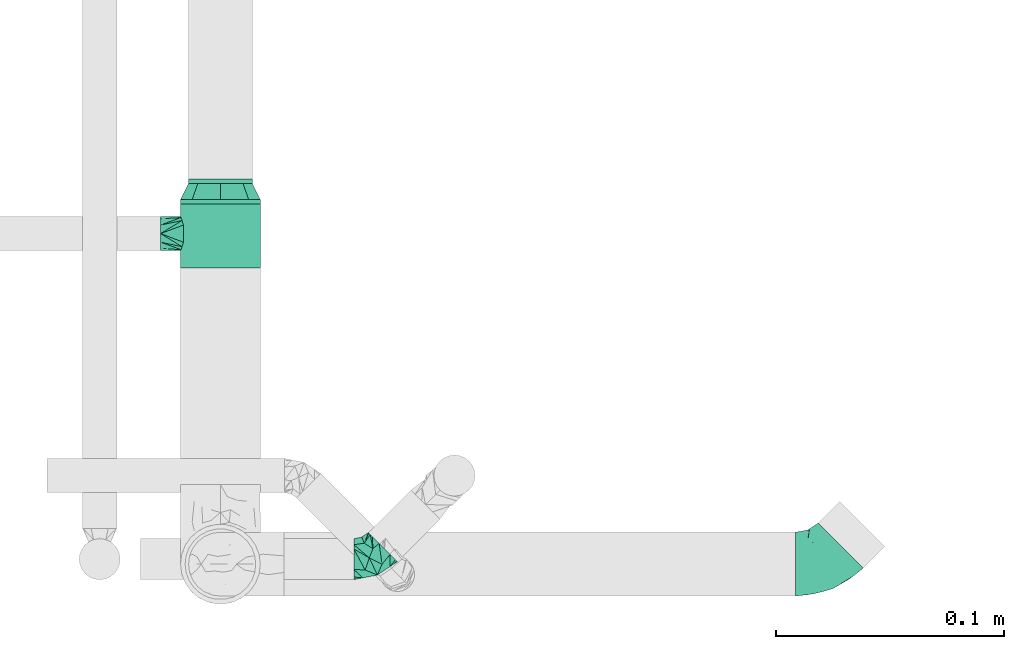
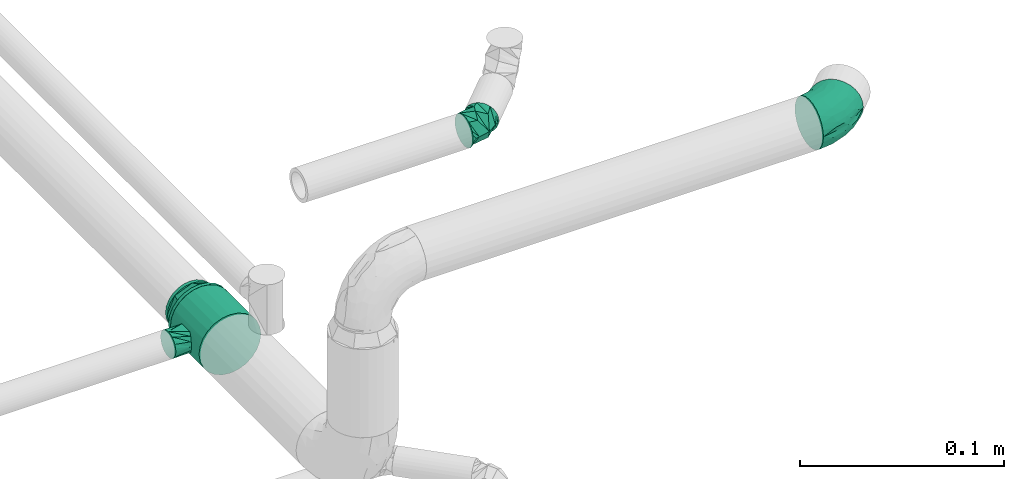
# One storey, part 31 of 35: 4 flow fittings.
"""IFC2X3 building model written with IfcOpenShell, lengths in millimetres."""

import ifcopenshell
import ifcopenshell.guid

model = None  # the IFC model being written
_history = None  # IfcOwnerHistory: only IFC2X3 demands one
_inside = {}  # id of a spatial element -> (the spatial element, [elements in it])
_under = {}  # id of a project, library or spatial element -> (it, [spatial elements below it])
_declared = {}  # id of a project -> (the project, [libraries it declares])
_typed = {}  # id of a type object -> (the type object, [elements of that type])
_made_of = {}  # id of a material, layer set ... -> (it, [elements and type objects made of it])


def new_model(schema):
    """Start an empty IFC model of exactly this schema.

    Asked for "IFC4X3", IfcOpenShell would pick the latest addendum, in which some entities
    have other attributes; the version numbers below select the first issue.
    IFC2X3 requires an IfcOwnerHistory on every rooted entity: one is made here for all.
    """
    global model, _history
    if schema == "IFC4X3":
        model = ifcopenshell.file(schema_version=(4, 3, 0, 0))
    else:
        model = ifcopenshell.file(schema=schema)
    _inside.clear()
    _under.clear()
    _declared.clear()
    _typed.clear()
    _made_of.clear()
    _history = None
    if model.schema == "IFC2X3":
        org = make("IfcOrganization", Name="unknown")
        user = make(
            "IfcPersonAndOrganization",
            ThePerson=make("IfcPerson", FamilyName="unknown"),
            TheOrganization=org,
        )
        app = make(
            "IfcApplication",
            ApplicationDeveloper=org,
            Version="unknown",
            ApplicationFullName="unknown",
            ApplicationIdentifier="unknown",
        )
        _history = make(
            "IfcOwnerHistory",
            OwningUser=user,
            OwningApplication=app,
            ChangeAction="ADDED",
            CreationDate=0,
        )
    return model


def make(cls, **values):
    """One entity of the class cls with the attributes given. An attribute that is None is left unset."""
    return model.create_entity(
        cls, **{name: value for name, value in values.items() if value is not None}
    )


def entity(cls, *values):
    """Any entity or typed value of the class cls, its attributes in the order of the schema. None: left unset."""
    e = model.create_entity(cls)
    for i, value in enumerate(values):
        if value is not None:
            e[i] = value
    return e


def rooted(cls, **values):
    """An entity with a GlobalId (a new one), such as an element, a storey or a relation."""
    return make(cls, GlobalId=ifcopenshell.guid.new(), OwnerHistory=_history, **values)


def si_unit(unit_type, name, prefix=None):
    """IfcSIUnit, for example si_unit("LENGTHUNIT", "METRE", prefix="MILLI")."""
    return make("IfcSIUnit", UnitType=unit_type, Prefix=prefix, Name=name)


def converted_unit(unit_type, name, factor, base, dimensions=None, offset=None):
    """IfcConversionBasedUnit, such as the inch: factor (a typed value) times the base unit."""
    return make(
        "IfcConversionBasedUnit"
        if offset is None
        else "IfcConversionBasedUnitWithOffset",
        ConversionOffset=offset,
        Dimensions=None
        if dimensions is None
        else entity("IfcDimensionalExponents", *dimensions),
        UnitType=unit_type,
        Name=name,
        ConversionFactor=make(
            "IfcMeasureWithUnit", ValueComponent=factor, UnitComponent=base
        ),
    )


def derived_unit(unit_type, elements):
    """IfcDerivedUnit: a product of units, each with its exponent."""
    return make(
        "IfcDerivedUnit",
        Elements=[
            make("IfcDerivedUnitElement", Unit=unit, Exponent=power)
            for unit, power in elements
        ],
        UnitType=unit_type,
    )


def assignment(units):
    """IfcUnitAssignment: the units of a project."""
    return None if units is None else make("IfcUnitAssignment", Units=units)


def point(xyz):
    """IfcCartesianPoint."""
    return None if xyz is None else make("IfcCartesianPoint", Coordinates=xyz)


def direction(xyz):
    """IfcDirection."""
    return None if xyz is None else make("IfcDirection", DirectionRatios=xyz)


def frame(location, z_axis=None, x_axis=None):
    """IfcAxis2Placement3D, a coordinate frame: its origin and axes. An axis left out is left unset."""
    return make(
        "IfcAxis2Placement3D",
        Location=point(location),
        Axis=direction(z_axis),
        RefDirection=direction(x_axis),
    )


def origin_with_axes():
    """The frame at (0, 0, 0) with the z axis (0, 0, 1) and the x axis (1, 0, 0) written out."""
    return frame((0.0, 0.0, 0.0), z_axis=(0.0, 0.0, 1.0), x_axis=(1.0, 0.0, 0.0))


def place(relative_to, where):
    """IfcLocalPlacement: puts the frame where relative to a parent placement (None: the world)."""
    return make(
        "IfcLocalPlacement", PlacementRelTo=relative_to, RelativePlacement=where
    )


def context(
    kind, dimensions, precision=None, world=None, true_north=None, identifier=None
):
    """IfcGeometricRepresentationContext, for example the 3D "Model" context."""
    return make(
        "IfcGeometricRepresentationContext",
        ContextIdentifier=identifier,
        ContextType=kind,
        CoordinateSpaceDimension=dimensions,
        Precision=precision,
        WorldCoordinateSystem=world,
        TrueNorth=true_north,
    )


def subcontext(parent, identifier, kind, view, scale=None):
    """IfcGeometricRepresentationSubContext, for example "Body" below "Model"."""
    return make(
        "IfcGeometricRepresentationSubContext",
        ContextIdentifier=identifier,
        ContextType=kind,
        ParentContext=parent,
        TargetScale=scale,
        TargetView=view,
    )


def project(units=None, contexts=None):
    """IfcProject with its units and contexts."""
    return rooted(
        "IfcProject",
        Name="project",
        RepresentationContexts=contexts,
        UnitsInContext=assignment(units),
    )


def spatial(cls, under=None, at=None, **own):
    """A site, building, storey or space (cls), placed at a placement, below another one or the project."""
    s = rooted(cls, ObjectPlacement=at, **own)
    if under is not None:
        _under.setdefault(under.id(), (under, []))[1].append(s)
    return s


def faces_of(points, faces, orient=None, outer=None):
    """IfcFace entities. A face is a list of loops; a loop is a list of indices into points, from 0.

    orient and outer hold one flag for each loop. By default every Orientation is true, the
    first loop of a face is its IfcFaceOuterBound and the others are IfcFaceBound.
    """
    made = []
    for i, loops in enumerate(faces):
        bounds = []
        for j, loop in enumerate(loops):
            is_outer = j == 0 if outer is None else outer[i][j]
            bounds.append(
                make(
                    "IfcFaceOuterBound" if is_outer else "IfcFaceBound",
                    Bound=make("IfcPolyLoop", Polygon=[points[k] for k in loop]),
                    Orientation=True if orient is None else orient[i][j],
                )
            )
        made.append(make("IfcFace", Bounds=bounds))
    return made


def open_shell(faces, orient=None, outer=None):
    """The faces of one IfcOpenShell. surface_model builds it on its shared points."""
    return ("IfcOpenShell", faces, orient, outer)


def surface_model(cls, points, shells):
    """IfcFaceBasedSurfaceModel or IfcShellBasedSurfaceModel (cls): surfaces that need not close."""
    shared = [point(p) for p in points]
    made = [make(c, CfsFaces=faces_of(shared, fs, o, b)) for c, fs, o, b in shells]
    if cls == "IfcFaceBasedSurfaceModel":
        return make(cls, FbsmFaces=made)
    return make(cls, SbsmBoundary=made)


def shape(context_of_items, identifier, shape_type, items):
    """IfcShapeRepresentation: the items that make up one representation, for example the "Body"."""
    return make(
        "IfcShapeRepresentation",
        ContextOfItems=context_of_items,
        RepresentationIdentifier=identifier,
        RepresentationType=shape_type,
        Items=items,
    )


def source(mapping_origin, context_of_items, identifier, shape_type, items):
    """IfcRepresentationMap: a shape defined once, which mapped items show again and again."""
    return make(
        "IfcRepresentationMap",
        MappingOrigin=mapping_origin,
        MappedRepresentation=shape(context_of_items, identifier, shape_type, items),
    )


def transform(
    local_origin,
    x_axis=None,
    y_axis=None,
    z_axis=None,
    scale=None,
    scale2=None,
    scale3=None,
    uniform=True,
):
    """IfcCartesianTransformationOperator3D, or its non-uniform kind. x_axis, y_axis, z_axis: its Axis1, 2, 3."""
    if uniform:
        return make(
            "IfcCartesianTransformationOperator3D",
            Axis1=direction(x_axis),
            Axis2=direction(y_axis),
            LocalOrigin=point(local_origin),
            Scale=scale,
            Axis3=direction(z_axis),
        )
    return make(
        "IfcCartesianTransformationOperator3DnonUniform",
        Axis1=direction(x_axis),
        Axis2=direction(y_axis),
        LocalOrigin=point(local_origin),
        Scale=scale,
        Axis3=direction(z_axis),
        Scale2=scale2,
        Scale3=scale3,
    )


def mapped(mapping_source, mapping_target):
    """IfcMappedItem: shows the shape of a source again, moved by a transform."""
    return make(
        "IfcMappedItem", MappingSource=mapping_source, MappingTarget=mapping_target
    )


def made_of(thing, what):
    """Note that an element or type object is made of a material, layer set ...; save() writes the relation."""
    if what is not None:
        _made_of.setdefault(what.id(), (what, []))[1].append(thing)
    return thing


def type_object(cls, material=None, **own):
    """A type object (cls), such as IfcWallType, which elements share."""
    return made_of(rooted(cls, **own), material)


def element(
    cls,
    number,
    at=None,
    inside=None,
    cuts=None,
    type_object=None,
    material=None,
    context=None,
    identifier="Body",
    shape_type=None,
    held_by="IfcProductDefinitionShape",
    body=None,
    shapes=None,
    **own,
):
    """One element of the class cls, such as IfcWall. Its Tag is "e" and its number.

    at: its placement. inside: the storey or other place that contains it. cuts: it is an
    opening in that element (IfcRelVoidsElement). A single representation is given by context,
    identifier, shape_type and body (its items); several are given by shapes. held_by: the class
    of the entity that holds the representations. save() writes the other relations.
    """
    e = rooted(cls, Tag="e%d" % number, ObjectPlacement=at, **own)
    if body is not None:
        shapes = [shape(context, identifier, shape_type, body)]
    if shapes is not None:
        e.Representation = make(held_by, Representations=shapes)
    if inside is not None:
        _inside.setdefault(inside.id(), (inside, []))[1].append(e)
    if cuts is not None:
        rooted(
            "IfcRelVoidsElement", RelatingBuildingElement=cuts, RelatedOpeningElement=e
        )
    if type_object is not None:
        _typed.setdefault(type_object.id(), (type_object, []))[1].append(e)
    return made_of(e, material)


def aggregate(whole, parts):
    """IfcRelAggregates: a whole, such as a stair, and the parts it consists of."""
    return rooted("IfcRelAggregates", RelatingObject=whole, RelatedObjects=parts)


def save(model, path):
    """Write the relations noted so far, then the file.

    IfcRelAggregates (storeys below a building ...), IfcRelContainedInSpatialStructure (elements
    in a storey), IfcRelDefinesByType, IfcRelAssociatesMaterial and IfcRelDeclares: one each for
    every whole, place, type object, material and project.
    """
    for whole, parts in _under.values():
        aggregate(whole, parts)
    for where, things in _inside.values():
        rooted(
            "IfcRelContainedInSpatialStructure",
            RelatedElements=things,
            RelatingStructure=where,
        )
    for kind, things in _typed.values():
        rooted("IfcRelDefinesByType", RelatedObjects=things, RelatingType=kind)
    for what, things in _made_of.values():
        rooted("IfcRelAssociatesMaterial", RelatedObjects=things, RelatingMaterial=what)
    for by, libraries in _declared.values():
        rooted("IfcRelDeclares", RelatingContext=by, RelatedDefinitions=libraries)
    model.write(path)


model = new_model("IFC2X3")

# Units and contexts
model_context = context("Model", 3, precision=0.01, world=frame((0.0, 4.29681676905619e-09, 0.0)), true_north=direction((4.01073788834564e-13, 1.0)))
plan_context = context("Plan", 3, precision=0.01, world=frame((0.0, 4.29681676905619e-09, 0.0)), true_north=direction((4.01073788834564e-13, 1.0)))
body_context = subcontext(model_context, "Body", "Model", "MODEL_VIEW")
ifc_project = project(units=[converted_unit("PLANEANGLEUNIT", "DEGREE", entity("IfcPositiveLengthMeasure", 0.0174532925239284), si_unit("PLANEANGLEUNIT", "RADIAN"), dimensions=[0, 0, 0, 0, 0, 0, 0]), si_unit("AREAUNIT", "SQUARE_METRE"), si_unit("LENGTHUNIT", "METRE", prefix="MILLI"), si_unit("MASSUNIT", "GRAM", prefix="KILO"), si_unit("POWERUNIT", "WATT"), si_unit("PRESSUREUNIT", "PASCAL"), si_unit("FORCEUNIT", "NEWTON", prefix="KILO"), si_unit("ELECTRICVOLTAGEUNIT", "VOLT"), si_unit("ELECTRICCURRENTUNIT", "AMPERE"), si_unit("THERMODYNAMICTEMPERATUREUNIT", "DEGREE_CELSIUS"), si_unit("TIMEUNIT", "SECOND"), si_unit("VOLUMEUNIT", "CUBIC_METRE"), derived_unit("LINEARVELOCITYUNIT", [(si_unit("LENGTHUNIT", "METRE"), 1), (si_unit("TIMEUNIT", "SECOND"), -1)]), derived_unit("VOLUMETRICFLOWRATEUNIT", [(si_unit("VOLUMEUNIT", "CUBIC_METRE"), 1), (si_unit("TIMEUNIT", "SECOND"), -1)]), derived_unit("THERMALTRANSMITTANCEUNIT", [(si_unit("POWERUNIT", "WATT"), 1), (si_unit("THERMODYNAMICTEMPERATUREUNIT", "KELVIN"), -1), (si_unit("AREAUNIT", "SQUARE_METRE"), -1)]), derived_unit("SOUNDPRESSUREUNIT", [(si_unit("PRESSUREUNIT", "PASCAL"), 1)])], contexts=[model_context, plan_context])

# Site, building, storey
site_placement = place(None, frame((0.0, -4.29681676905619e-09, 0.0), z_axis=(0.0, 0.0, 1.0), x_axis=(1.0, 0.0, 0.0)))
site = spatial("IfcSite", under=ifc_project, at=site_placement, Name="ENGM", CompositionType="ELEMENT")
building_placement = place(site_placement, frame((0.0, 4.29681676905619e-09, 0.0), z_axis=(0.0, 0.0, 1.0), x_axis=(1.0, 0.0, 0.0)))
building = spatial("IfcBuilding", under=site, at=building_placement, Name="TH", CompositionType="ELEMENT")
storey_placement = place(building_placement, frame((0.0, 0.0, 210200.0), z_axis=(0.0, 0.0, 1.0), x_axis=(1.0, 0.0, 0.0)))
storey = spatial("IfcBuildingStorey", under=building, at=storey_placement, Name="Nivå F - 0,7 m", CompositionType="ELEMENT", Elevation=210200.0)

# Flow fittings
pipe_fitting_type_1 = type_object("IfcPipeFittingType", Name="magi_pipe_cu_tee_centric_90_001", PredefinedType="JUNCTION")
shared_shape_1 = source(origin_with_axes(), body_context, "Body", "SurfaceModel", [
    surface_model("IfcShellBasedSurfaceModel", [(-15.0, 4.52933, -16.9037), (-15.0, 0.0, -17.5), (-15.0, 16.9037, -4.52933), (-15.0, 8.75, -15.15544), (-15.0, 12.37437, -12.37437), (-15.0, 15.15544, -8.75), (-15.0, -16.9037, 4.52933), (-15.0, -16.9037, -4.52933), (-15.0, -4.52933, -16.9037), (-15.0, -8.75, -15.15544), (-15.0, -12.37437, -12.37437), (-15.0, -15.15544, -8.75), (-15.0, -17.5, 0.0), (-15.0, 15.15544, 8.75), (-15.0, 16.9037, 4.52933), (-15.0, 8.75, 15.15544), (-15.0, 12.37437, 12.37437), (-15.0, 4.52933, 16.9037), (-15.0, -15.15544, 8.75), (-15.0, -12.37437, 12.37437), (-15.0, -4.52933, 16.9037), (-15.0, -8.75, 15.15544), (-15.0, 0.0, 17.5), (-15.0, 17.5, 0.0), (15.0, 16.9037, -4.52933), (15.0, 0.0, -17.5), (15.0, 4.52933, -16.9037), (15.0, 12.37437, -12.37437), (15.0, 8.75, -15.15544), (15.0, 15.15544, -8.75), (15.0, -16.9037, -4.52933), (15.0, -16.9037, 4.52933), (15.0, -8.75, -15.15544), (15.0, -4.52933, -16.9037), (15.0, -12.37437, -12.37437), (15.0, -15.15544, -8.75), (15.0, -17.5, 0.0), (15.0, 16.9037, 4.52933), (15.0, 15.15544, 8.75), (15.0, 8.75, 15.15544), (15.0, 12.37437, 12.37437), (15.0, 4.52933, 16.9037), (15.0, -12.37437, 12.37437), (15.0, -15.15544, 8.75), (15.0, -4.52933, 16.9037), (15.0, -8.75, 15.15544), (15.0, 0.0, 17.5), (15.0, 17.5, 0.0), (15.0, -17.20185, 2.26467), (7.03945, -17.30762, 2.58769), (7.5, -17.5, 0.0), (5.73763, -16.82024, 4.83007), (1.3158, -15.86604, 7.38368), (-7.03966, -17.30771, 2.58712), (-15.0, -17.20185, 2.26467), (3.76622, -16.25375, 6.4858), (-7.5, -17.5, 0.0), (-5.73962, -16.82092, 4.82771), (-3.76686, -16.2539, 6.48543), (-1.31787, -15.86621, 7.38331), (7.03945, -17.30762, -2.58769), (15.0, -17.20185, -2.26467), (-15.0, -17.20185, -2.26467), (-7.03966, -17.30771, -2.58712), (3.76622, -16.25375, -6.4858), (1.3158, -15.86604, -7.38368), (5.73763, -16.82024, -4.83007), (-1.31787, -15.86621, -7.38331), (-3.76686, -16.2539, -6.48543), (-5.73962, -16.82092, -4.82771), (5.3033, -26.25, -5.3033), (0.0, -26.25, -7.5), (1.94114, -26.25, -7.24444), (3.75, -26.25, -6.49519), (6.49519, -26.25, -3.75), (7.24444, -26.25, -1.94114), (-5.3033, -26.25, -5.3033), (-7.5, -26.25, 0.0), (-1.94114, -26.25, -7.24444), (-3.75, -26.25, -6.49519), (-6.49519, -26.25, -3.75), (-7.24444, -26.25, -1.94114), (3.75, -26.25, 6.49519), (7.5, -26.25, 0.0), (7.24444, -26.25, 1.94114), (6.49519, -26.25, 3.75), (0.0, -26.25, 7.5), (5.3033, -26.25, 5.3033), (1.94114, -26.25, 7.24444), (-7.24444, -26.25, 1.94114), (-5.3033, -26.25, 5.3033), (-6.49519, -26.25, 3.75), (-3.75, -26.25, 6.49519), (-1.94114, -26.25, 7.24444)], [open_shell([[[0, 1, 2]], [[3, 0, 4]], [[2, 5, 4]], [[0, 2, 4]], [[6, 1, 7]], [[8, 9, 1]], [[9, 10, 1]], [[11, 7, 10]], [[10, 7, 1]], [[12, 6, 7]], [[2, 1, 6]], [[2, 13, 14]], [[13, 2, 6]], [[15, 13, 6]], [[16, 13, 15]], [[17, 15, 6]], [[18, 19, 6]], [[20, 6, 19]], [[21, 20, 19]], [[22, 6, 20]], [[22, 17, 6]], [[23, 2, 14]], [[24, 25, 26]], [[27, 26, 28]], [[27, 29, 24]], [[27, 24, 26]], [[30, 25, 31]], [[25, 32, 33]], [[25, 34, 32]], [[34, 30, 35]], [[25, 30, 34]], [[30, 31, 36]], [[31, 25, 24]], [[37, 38, 24]], [[31, 24, 38]], [[31, 38, 39]], [[39, 38, 40]], [[31, 39, 41]], [[31, 42, 43]], [[42, 31, 44]], [[42, 44, 45]], [[44, 31, 46]], [[31, 41, 46]], [[37, 24, 47]], [[48, 31, 49]], [[50, 36, 48]], [[31, 51, 49]], [[52, 43, 18]], [[53, 6, 54]], [[51, 31, 55]], [[52, 55, 43]], [[43, 42, 18]], [[55, 31, 43]], [[50, 48, 49]], [[53, 54, 56]], [[12, 56, 54]], [[53, 57, 6]], [[58, 59, 18]], [[18, 6, 58]], [[59, 52, 18]], [[58, 6, 57]], [[42, 19, 18]], [[42, 45, 19]], [[22, 44, 46]], [[20, 45, 44]], [[17, 46, 41]], [[38, 37, 14]], [[16, 39, 40]], [[13, 40, 38]], [[41, 39, 15]], [[23, 37, 47]], [[21, 45, 20]], [[20, 44, 22]], [[17, 22, 46]], [[41, 15, 17]], [[15, 39, 16]], [[13, 16, 40]], [[14, 13, 38]], [[37, 23, 14]], [[45, 21, 19]], [[24, 23, 47]], [[2, 24, 29]], [[29, 27, 5]], [[25, 33, 8]], [[60, 30, 61]], [[26, 25, 0]], [[28, 4, 27]], [[33, 32, 9]], [[26, 3, 28]], [[4, 5, 27]], [[5, 2, 29]], [[2, 23, 24]], [[56, 62, 63]], [[0, 25, 1]], [[1, 25, 8]], [[33, 9, 8]], [[3, 4, 28]], [[26, 0, 3]], [[32, 10, 9]], [[11, 34, 35]], [[64, 65, 35]], [[35, 30, 64]], [[11, 35, 65]], [[36, 50, 61]], [[60, 66, 30]], [[60, 61, 50]], [[30, 66, 64]], [[67, 68, 11]], [[10, 34, 11]], [[68, 7, 11]], [[11, 65, 67]], [[69, 63, 7]], [[63, 62, 7]], [[62, 56, 12]], [[69, 7, 68]], [[34, 10, 32]], [[70, 71, 72]], [[70, 72, 73]], [[70, 74, 75]], [[71, 70, 76]], [[77, 70, 75]], [[78, 76, 79]], [[78, 71, 76]], [[80, 77, 81]], [[77, 80, 76]], [[70, 77, 76]], [[75, 82, 77]], [[83, 84, 85]], [[85, 82, 75]], [[82, 86, 77]], [[82, 85, 87]], [[86, 82, 88]], [[89, 90, 91]], [[90, 89, 86]], [[92, 86, 93]], [[86, 92, 90]], [[77, 86, 89]], [[85, 75, 83]], [[56, 77, 89]], [[53, 91, 90]], [[89, 91, 56]], [[90, 92, 53]], [[56, 91, 53]], [[53, 92, 57]], [[59, 58, 55]], [[57, 86, 58]], [[93, 86, 57]], [[93, 57, 92]], [[88, 51, 86]], [[82, 51, 88]], [[49, 87, 85]], [[82, 87, 49]], [[50, 85, 84]], [[86, 51, 55]], [[52, 59, 55]], [[85, 50, 49]], [[49, 51, 82]], [[84, 83, 50]], [[55, 58, 86]], [[50, 83, 75]], [[60, 74, 70]], [[75, 74, 50]], [[70, 73, 60]], [[50, 74, 60]], [[60, 73, 66]], [[65, 64, 67]], [[66, 71, 64]], [[72, 71, 66]], [[72, 66, 73]], [[69, 71, 78]], [[79, 69, 78]], [[63, 76, 80]], [[79, 76, 63]], [[56, 80, 81]], [[71, 69, 68]], [[67, 64, 68]], [[80, 56, 63]], [[63, 69, 79]], [[81, 77, 56]], [[68, 64, 71]]])]),
])
flow_fitting_1_placement = place(storey_placement, frame((895573.45, 478692.05558, 3055.47382000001), z_axis=(0.0, 3.999999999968e-06, -0.999999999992), x_axis=(0.0, 0.999999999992, 3.999999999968e-06)))
element("IfcFlowFitting", 1, at=flow_fitting_1_placement, inside=storey, type_object=pipe_fitting_type_1, Name="magi_pipe_cu_tee_centric_90_001", context=body_context, shape_type="MappedRepresentation", body=[
    mapped(shared_shape_1, transform((0.0, 0.0, 0.0), scale=1.0)),
])
pipe_fitting_type_2 = type_object("IfcPipeFittingType", Name="magi_pipe_cu_elbow_short_001", PredefinedType="BEND")
shared_shape_2 = source(origin_with_axes(), body_context, "Body", "SurfaceModel", [
    surface_model("IfcShellBasedSurfaceModel", [(-11.59798, 3.62347, -13.52296), (-11.59798, 0.0, -14.0), (-11.59798, 13.52296, -3.62347), (-11.59798, 7.0, -12.12436), (-11.59798, 9.89949, -9.89949), (-11.59798, 12.12436, -7.0), (-11.59798, -9.89949, 9.89949), (-11.59798, -13.52296, -3.62347), (-11.59798, -7.0, -12.12436), (-11.59798, -9.89949, -9.89949), (-11.59798, -3.62347, -13.52296), (-11.59798, -12.12436, -7.0), (-11.59798, -14.0, 0.0), (-11.59798, -13.52296, 3.62347), (-11.59798, 13.52296, 3.62347), (-11.59798, 14.0, 0.0), (-11.59798, 3.62347, 13.52296), (-11.59798, 12.12436, 7.0), (-11.59798, 9.89949, 9.89949), (-11.59798, 7.0, 12.12436), (-11.59798, 0.0, 14.0), (-11.59798, -12.12436, 7.0), (-11.59798, -3.62347, 13.52296), (-11.59798, -7.0, 12.12436), (1.20101, 15.20101, -9.89949), (5.63883, 10.76319, -13.52296), (3.25126, 13.15076, -12.12436), (10.76319, 5.63883, -13.52296), (15.20101, 1.20101, -9.89949), (13.15076, 3.25126, -12.12436), (1.20101, 15.20101, 9.89949), (-1.36117, 17.76319, 3.62347), (-0.3722, 16.77422, 7.0), (17.76319, -1.36117, 3.62347), (15.20101, 1.20101, 9.89949), (16.77422, -0.3722, 7.0), (13.15076, 3.25126, 12.12436), (8.20101, 8.20101, 14.0), (10.76319, 5.63883, 13.52296), (-5.54733, -5.13368, 12.79528), (-3.09728, -7.91248, 10.80295), (1.43749, -3.4704, 12.61888), (-4.52077, -10.70735, 8.19754), (10.76791, -4.37457, 8.19754), (-4.17837, -1.34796, 13.81453), (-5.37924, 5.82578, 13.08803), (-1.3316, 3.21475, 13.9508), (-7.01464, 1.94, 13.91504), (5.63883, 10.76319, 13.52296), (0.41555, 8.4165, 13.06701), (2.53088, 6.62697, 13.79637), (3.56571, -8.6084, 7.80178), (7.55262, 0.29249, 12.79528), (-5.76737, 13.92367, 5.7518), (-6.17396, 11.74106, 8.83494), (-3.97673, 9.60067, 11.42968), (1.20522, -11.76941, 2.47487), (6.40016, -9.70404, 2.47487), (4.13988, -9.99455, 4.87178), (-3.56163, -12.40147, 0.0), (-3.94515, -13.0586, 2.55052), (13.4923, -5.3555, 2.69269), (10.33958, -6.78955, 4.86184), (-5.60762, 15.0014, 2.94157), (-2.51025, -12.11212, 4.86184), (3.25126, 13.15076, 12.12436), (3.9077, 2.00141, 13.81453), (7.78508, -3.40486, 10.80295), (4.47472, -10.80294, 0.0), (11.28761, -6.25071, 0.0), (18.10051, -1.69848, 0.0), (-6.24041, 15.06569, 0.0), (-1.69848, 18.10051, 0.0), (2.34987, -5.67309, 11.16422), (-4.17837, -1.34796, -13.81452), (7.47001, -9.17445, -2.47487), (2.3362, -11.38739, -2.47487), (4.13988, -9.99455, -4.87178), (8.20101, 8.20101, -14.0), (3.9077, 2.00141, -13.81452), (-6.24521, 5.65753, -13.06701), (-6.47558, 2.89638, -13.79637), (-3.93654, 12.66784, -8.83494), (7.78508, -3.40486, -10.80295), (-5.76737, 13.92367, -5.7518), (16.77422, -0.3722, -7.0), (17.76319, -1.36117, -3.62347), (10.33958, -6.78955, -4.86184), (-6.6424, 14.57277, -2.94157), (-0.31575, 7.92315, -13.08803), (-5.75358, -13.32741, -2.69269), (-2.51025, -12.11212, -4.86184), (3.56571, -8.6084, -7.80178), (10.76791, -4.37457, -8.19754), (-4.52077, -10.70735, -8.19754), (-3.09728, -7.91248, -10.80295), (2.34987, -5.67309, -11.16422), (-5.54733, -5.13368, -12.79528), (1.43749, -3.4704, -12.61888), (7.55262, 0.29249, -12.79528), (-1.36117, 17.76319, -3.62347), (-1.33159, 3.21474, -13.9508), (-3.97673, 9.60067, -11.42968), (-0.3722, 16.77422, -7.0), (12.02347, -6.44418, -2.55052), (3.58832, 6.33189, -13.91504)], [open_shell([[[0, 1, 2]], [[3, 0, 4]], [[2, 5, 4]], [[0, 2, 4]], [[6, 1, 7]], [[8, 9, 10]], [[9, 1, 10]], [[11, 7, 9]], [[9, 7, 1]], [[12, 13, 7]], [[2, 1, 6]], [[14, 15, 16]], [[17, 14, 18]], [[16, 19, 18]], [[14, 16, 18]], [[20, 16, 15]], [[21, 6, 13]], [[6, 7, 13]], [[22, 20, 23]], [[6, 23, 20]], [[2, 6, 20]], [[15, 2, 20]], [[24, 25, 26]], [[27, 28, 29]], [[30, 31, 32]], [[33, 34, 35]], [[36, 37, 38]], [[39, 40, 41]], [[6, 42, 40]], [[23, 6, 40]], [[35, 34, 43]], [[20, 22, 44]], [[22, 23, 39]], [[19, 16, 45]], [[46, 47, 44]], [[20, 47, 16]], [[48, 49, 50]], [[40, 42, 51]], [[36, 38, 52]], [[53, 17, 54]], [[55, 18, 19]], [[56, 57, 58]], [[59, 56, 60]], [[61, 33, 62]], [[53, 63, 14]], [[21, 13, 64]], [[15, 14, 63]], [[14, 17, 53]], [[6, 21, 42]], [[45, 55, 19]], [[64, 58, 51]], [[12, 59, 60]], [[65, 30, 55]], [[37, 50, 66]], [[34, 36, 67]], [[32, 31, 53]], [[66, 38, 37]], [[56, 59, 68]], [[34, 67, 43]], [[46, 50, 49]], [[67, 36, 52]], [[21, 64, 42]], [[69, 61, 57]], [[33, 61, 70]], [[47, 45, 16]], [[63, 53, 31]], [[71, 63, 72]], [[43, 51, 62]], [[40, 73, 41]], [[41, 66, 44]], [[48, 65, 49]], [[41, 52, 66]], [[53, 54, 32]], [[46, 44, 66]], [[30, 32, 54]], [[55, 45, 49]], [[39, 44, 22]], [[17, 18, 54]], [[33, 35, 62]], [[51, 42, 64]], [[73, 51, 67]], [[51, 43, 67]], [[62, 35, 43]], [[18, 55, 54]], [[30, 54, 55]], [[55, 49, 65]], [[46, 49, 45]], [[40, 39, 23]], [[44, 39, 41]], [[66, 52, 38]], [[67, 52, 41]], [[66, 50, 46]], [[37, 48, 50]], [[44, 47, 20]], [[45, 47, 46]], [[56, 58, 64]], [[62, 51, 58]], [[56, 64, 60]], [[57, 56, 68]], [[69, 57, 68]], [[62, 58, 57]], [[64, 13, 60]], [[12, 60, 13]], [[51, 73, 40]], [[67, 41, 73]], [[72, 63, 31]], [[63, 71, 15]], [[57, 61, 62]], [[70, 61, 69]], [[10, 1, 74]], [[75, 76, 77]], [[78, 27, 79]], [[80, 81, 0]], [[5, 82, 4]], [[29, 28, 83]], [[84, 82, 5]], [[85, 86, 87]], [[2, 88, 84]], [[26, 25, 89]], [[90, 7, 91]], [[3, 80, 0]], [[59, 90, 76]], [[92, 93, 87]], [[7, 90, 12]], [[94, 9, 95]], [[9, 8, 95]], [[96, 92, 95]], [[7, 11, 91]], [[9, 94, 11]], [[97, 8, 10]], [[94, 92, 91]], [[98, 74, 79]], [[99, 79, 27]], [[15, 71, 88]], [[75, 69, 68]], [[72, 100, 88]], [[101, 79, 74]], [[24, 26, 102]], [[84, 5, 2]], [[103, 82, 84]], [[97, 95, 8]], [[89, 102, 26]], [[81, 74, 1]], [[102, 89, 80]], [[4, 102, 3]], [[69, 75, 104]], [[78, 105, 25]], [[99, 27, 29]], [[87, 77, 92]], [[28, 85, 93]], [[83, 98, 99]], [[83, 93, 92]], [[98, 97, 74]], [[70, 69, 104]], [[103, 24, 82]], [[105, 89, 25]], [[93, 83, 28]], [[83, 96, 98]], [[105, 79, 101]], [[101, 81, 80]], [[100, 84, 88]], [[85, 87, 93]], [[100, 103, 84]], [[92, 94, 95]], [[91, 11, 94]], [[24, 102, 82]], [[4, 82, 102]], [[102, 80, 3]], [[101, 80, 89]], [[74, 97, 10]], [[95, 97, 98]], [[83, 99, 29]], [[79, 99, 98]], [[74, 81, 101]], [[1, 0, 81]], [[79, 105, 78]], [[89, 105, 101]], [[75, 77, 87]], [[91, 92, 77]], [[75, 87, 104]], [[76, 75, 68]], [[59, 76, 68]], [[91, 77, 76]], [[87, 86, 104]], [[70, 104, 86]], [[92, 96, 83]], [[95, 98, 96]], [[15, 88, 2]], [[88, 71, 72]], [[76, 90, 91]], [[12, 90, 59]], [[24, 103, 100]], [[25, 28, 78]], [[24, 100, 25]], [[31, 28, 25]], [[27, 78, 28]], [[28, 86, 85]], [[86, 28, 70]], [[28, 34, 70]], [[31, 25, 100]], [[34, 28, 31]], [[31, 65, 34]], [[65, 31, 30]], [[48, 34, 65]], [[70, 34, 33]], [[37, 36, 34]], [[48, 37, 34]], [[100, 72, 31]]])]),
])
flow_fitting_2_placement = place(storey_placement, frame((895837.40996, 478547.05558, 3178.15807999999), z_axis=(0.0, 0.000126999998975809, 0.9999999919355), x_axis=(1.0, 0.0, 0.0)))
element("IfcFlowFitting", 2, at=flow_fitting_2_placement, inside=storey, type_object=pipe_fitting_type_2, Name="magi_pipe_cu_elbow_short_001", context=body_context, shape_type="MappedRepresentation", body=[
    mapped(shared_shape_2, transform((0.0, 0.0, 0.0), scale=1.0)),
])
pipe_fitting_type_3 = type_object("IfcPipeFittingType", Name="magi_pipe_cu_reducer_centric_short_001", PredefinedType="TRANSITION")
shared_shape_3 = source(origin_with_axes(), body_context, "Body", "SurfaceModel", [
    surface_model("IfcShellBasedSurfaceModel", [(-2.0, 0.0, 17.5), (-2.0, 4.52933, 16.9037), (-2.0, 8.75, 15.15544), (-2.0, -16.9037, 4.52933), (-2.0, 12.37437, 12.37437), (-2.0, 15.15544, 8.75), (-2.0, 16.9037, 4.52933), (-2.0, -8.75, 15.15544), (-2.0, -12.37437, 12.37437), (-2.0, -4.52933, 16.9037), (-2.0, -15.15544, 8.75), (-2.0, -15.15544, -8.75), (-2.0, -17.5, 0.0), (-2.0, 16.9037, -4.52933), (-2.0, 8.75, -15.15544), (-2.0, 12.37437, -12.37437), (-2.0, 15.15544, -8.75), (-2.0, 4.52933, -16.9037), (-2.0, -8.75, -15.15544), (-2.0, -12.37437, -12.37437), (-2.0, -16.9037, -4.52933), (-2.0, 0.0, -17.5), (-2.0, -4.52933, -16.9037), (-2.0, 17.5, 0.0), (0.0, 16.9037, -4.52933), (0.0, 4.52933, -16.9037), (0.0, 8.75, -15.15544), (0.0, 12.37437, -12.37437), (0.0, -15.15544, -8.75), (0.0, 15.15544, -8.75), (0.0, 16.9037, 4.52933), (0.0, 0.0, -17.5), (0.0, -8.75, -15.15544), (0.0, -4.52933, -16.9037), (0.0, -12.37437, -12.37437), (0.0, -17.5, 0.0), (0.0, -16.9037, -4.52933), (0.0, 17.5, 0.0), (0.0, 15.15544, 8.75), (0.0, 12.37437, 12.37437), (0.0, 8.75, 15.15544), (0.0, 4.52933, 16.9037), (0.0, 0.0, 17.5), (0.0, -16.9037, 4.52933), (0.0, -12.37437, 12.37437), (0.0, -15.15544, 8.75), (0.0, -8.75, 15.15544), (0.0, -4.52933, 16.9037), (9.0, 3.62347, -13.52296), (9.0, 7.0, -12.12436), (9.0, 9.89949, -9.89949), (9.0, 12.12436, -7.0), (9.0, 13.52296, -3.62347), (9.0, -7.0, -12.12436), (9.0, -12.12436, -7.0), (9.0, 14.0, 0.0), (9.0, 0.0, -14.0), (9.0, -3.62347, -13.52296), (9.0, -9.89949, -9.89949), (9.0, -13.52296, -3.62347), (9.0, 13.52296, 3.62347), (9.0, 12.12436, 7.0), (9.0, 9.89949, 9.89949), (9.0, 0.0, 14.0), (9.0, 3.62347, 13.52296), (9.0, 7.0, 12.12436), (9.0, -3.62347, 13.52296), (9.0, -13.52296, 3.62347), (9.0, -9.89949, 9.89949), (9.0, -12.12436, 7.0), (9.0, -14.0, 0.0), (9.0, -7.0, 12.12436), (7.0, 9.89949, 9.89949), (7.0, 0.0, 14.0), (7.0, 3.62347, 13.52296), (7.0, 7.0, 12.12436), (7.0, 12.12436, 7.0), (7.0, 13.52296, 3.62347), (7.0, -14.0, 0.0), (7.0, -12.12436, -7.0), (7.0, -3.62347, 13.52296), (7.0, -9.89949, 9.89949), (7.0, -7.0, 12.12436), (7.0, -13.52296, 3.62347), (7.0, -12.12436, 7.0), (7.0, 13.52296, -3.62347), (7.0, 3.62347, -13.52296), (7.0, 12.12436, -7.0), (7.0, 9.89949, -9.89949), (7.0, 7.0, -12.12436), (7.0, 0.0, -14.0), (7.0, -7.0, -12.12436), (7.0, -9.89949, -9.89949), (7.0, -13.52296, -3.62347), (7.0, -3.62347, -13.52296), (7.0, 14.0, 0.0), (0.0, 13.65578, -9.28078), (0.0, 14.93718, -6.18718), (7.0, 10.94135, -7.38422), (7.0, 11.98322, -4.86895), (0.0, 16.21859, -3.09359), (7.0, 12.99161, -2.43447), (0.0, 3.09359, -16.21859), (0.0, 6.18718, -14.93718), (0.0, 9.28078, -13.65578), (7.0, 4.94975, -11.94975), (7.0, 7.42462, -10.92462), (7.0, 2.47487, -12.97487), (0.0, -14.93718, -6.18718), (7.0, -11.94975, -4.94975), (7.0, -12.97487, -2.47487), (7.0, -2.47487, -12.97487), (7.0, -10.92462, -7.42462), (0.0, -16.23951, -3.04309), (0.0, -13.65578, -9.28078), (7.0, -4.94975, -11.94975), (7.0, -7.42462, -10.92462), (0.0, -6.18718, -14.93718), (0.0, -3.09359, -16.21859), (0.0, -9.28078, -13.65578), (0.0, -13.65578, 9.28078), (0.0, -14.93718, 6.18718), (7.0, -10.94135, 7.38422), (7.0, -11.98322, 4.86895), (0.0, -16.21859, 3.09359), (7.0, -12.99161, 2.43447), (0.0, -3.09359, 16.21859), (0.0, -6.18718, 14.93718), (0.0, -9.28078, 13.65578), (7.0, -4.94975, 11.94975), (7.0, -7.42462, 10.92462), (7.0, -2.47487, 12.97487), (0.0, 14.93718, 6.18718), (7.0, 11.94975, 4.94975), (7.0, 12.97487, 2.47487), (7.0, 2.47487, 12.97487), (7.0, 10.92462, 7.42462), (0.0, 16.23951, 3.04309), (0.0, 13.65578, 9.28078), (7.0, 4.94975, 11.94975), (7.0, 7.42462, 10.92462), (0.0, 6.18718, 14.93718), (0.0, 3.09359, 16.21859), (0.0, 9.28078, 13.65578)], [open_shell([[[0, 1, 2]], [[3, 0, 2]], [[4, 5, 6]], [[4, 6, 2]], [[3, 2, 6]], [[7, 3, 8]], [[7, 9, 0]], [[8, 3, 10]], [[0, 3, 7]], [[3, 11, 12]], [[3, 6, 13]], [[3, 13, 14]], [[15, 13, 16]], [[17, 3, 14]], [[14, 13, 15]], [[17, 18, 3]], [[11, 18, 19]], [[20, 12, 11]], [[18, 21, 22]], [[11, 3, 18]], [[21, 18, 17]], [[6, 23, 13]], [[24, 25, 26]], [[24, 26, 27]], [[25, 24, 28]], [[24, 27, 29]], [[30, 28, 24]], [[31, 32, 33]], [[31, 25, 32]], [[32, 28, 34]], [[25, 28, 32]], [[28, 35, 36]], [[30, 24, 37]], [[30, 38, 39]], [[35, 30, 39]], [[40, 41, 42]], [[39, 40, 43]], [[42, 43, 40]], [[43, 44, 45]], [[43, 35, 39]], [[43, 46, 44]], [[43, 42, 46]], [[47, 46, 42]], [[30, 35, 28]], [[20, 36, 12]], [[11, 28, 20]], [[32, 19, 18]], [[11, 19, 34]], [[33, 18, 22]], [[20, 28, 36]], [[36, 35, 12]], [[33, 32, 18]], [[34, 19, 32]], [[34, 28, 11]], [[31, 33, 22]], [[22, 21, 31]], [[17, 25, 21]], [[14, 26, 17]], [[29, 15, 16]], [[14, 15, 27]], [[24, 16, 13]], [[14, 27, 26]], [[26, 25, 17]], [[37, 24, 13]], [[29, 16, 24]], [[29, 27, 15]], [[23, 37, 13]], [[21, 25, 31]], [[6, 30, 23]], [[5, 38, 6]], [[40, 4, 2]], [[5, 4, 39]], [[41, 2, 1]], [[6, 38, 30]], [[30, 37, 23]], [[41, 40, 2]], [[39, 4, 40]], [[39, 38, 5]], [[42, 41, 1]], [[1, 0, 42]], [[9, 47, 0]], [[7, 46, 9]], [[45, 8, 10]], [[7, 8, 44]], [[43, 10, 3]], [[7, 44, 46]], [[46, 47, 9]], [[35, 43, 3]], [[45, 10, 43]], [[45, 44, 8]], [[12, 35, 3]], [[0, 47, 42]], [[35, 44, 42]], [[42, 39, 35]], [[34, 35, 31]], [[39, 37, 27]], [[39, 27, 35]], [[48, 49, 50]], [[48, 50, 51]], [[48, 52, 53]], [[52, 48, 51]], [[54, 52, 55]], [[56, 53, 57]], [[56, 48, 53]], [[53, 54, 58]], [[52, 54, 53]], [[55, 59, 54]], [[55, 60, 59]], [[60, 61, 62]], [[60, 62, 63]], [[64, 63, 62]], [[64, 62, 65]], [[60, 63, 66]], [[67, 68, 69]], [[66, 67, 70]], [[68, 66, 71]], [[66, 68, 67]], [[70, 60, 66]], [[60, 70, 59]], [[72, 73, 74]], [[72, 74, 75]], [[72, 76, 77]], [[72, 77, 73]], [[78, 73, 79]], [[80, 81, 82]], [[81, 80, 83]], [[81, 83, 84]], [[83, 80, 78]], [[80, 73, 78]], [[73, 77, 79]], [[79, 77, 85]], [[86, 85, 87]], [[88, 89, 86]], [[88, 86, 87]], [[90, 85, 86]], [[79, 91, 92]], [[93, 78, 79]], [[91, 90, 94]], [[91, 79, 85]], [[90, 91, 85]], [[77, 95, 85]], [[93, 59, 78]], [[79, 54, 93]], [[53, 92, 91]], [[79, 92, 58]], [[57, 91, 94]], [[93, 54, 59]], [[59, 70, 78]], [[57, 53, 91]], [[58, 92, 53]], [[58, 54, 79]], [[56, 57, 94]], [[94, 90, 56]], [[86, 48, 90]], [[89, 49, 86]], [[51, 88, 87]], [[89, 88, 50]], [[52, 87, 85]], [[89, 50, 49]], [[49, 48, 86]], [[55, 52, 85]], [[51, 87, 52]], [[51, 50, 88]], [[95, 55, 85]], [[90, 48, 56]], [[77, 60, 95]], [[76, 61, 77]], [[65, 72, 75]], [[76, 72, 62]], [[64, 75, 74]], [[77, 61, 60]], [[60, 55, 95]], [[64, 65, 75]], [[62, 72, 65]], [[62, 61, 76]], [[63, 64, 74]], [[74, 73, 63]], [[80, 66, 73]], [[82, 71, 80]], [[69, 81, 84]], [[82, 81, 68]], [[67, 84, 83]], [[82, 68, 71]], [[71, 66, 80]], [[70, 67, 83]], [[69, 84, 67]], [[69, 68, 81]], [[78, 70, 83]], [[73, 66, 63]], [[73, 81, 95]], [[95, 72, 73]], [[81, 92, 95]], [[90, 95, 92]], [[88, 95, 90]], [[92, 81, 78]], [[27, 31, 35]], [[96, 97, 98]], [[99, 100, 101]], [[37, 95, 101]], [[90, 31, 102]], [[103, 104, 105]], [[104, 27, 106]], [[88, 27, 96]], [[103, 107, 102]], [[108, 109, 110]], [[37, 101, 100]], [[31, 90, 111]], [[112, 34, 92]], [[110, 78, 113]], [[109, 114, 112]], [[34, 112, 114]], [[115, 116, 117]], [[115, 118, 111]], [[90, 102, 107]], [[116, 92, 119]], [[31, 111, 118]], [[97, 99, 98]], [[88, 96, 98]], [[100, 99, 97]], [[27, 88, 106]], [[105, 104, 106]], [[107, 103, 105]], [[78, 35, 113]], [[108, 110, 113]], [[114, 109, 108]], [[92, 34, 119]], [[117, 116, 119]], [[118, 115, 117]], [[120, 121, 122]], [[123, 124, 125]], [[35, 78, 125]], [[73, 42, 126]], [[127, 128, 129]], [[128, 44, 130]], [[81, 44, 120]], [[127, 131, 126]], [[132, 133, 134]], [[35, 125, 124]], [[42, 73, 135]], [[136, 39, 72]], [[134, 95, 137]], [[133, 138, 136]], [[39, 136, 138]], [[139, 140, 141]], [[139, 142, 135]], [[73, 126, 131]], [[140, 72, 143]], [[42, 135, 142]], [[121, 123, 122]], [[81, 120, 122]], [[124, 123, 121]], [[44, 81, 130]], [[129, 128, 130]], [[131, 127, 129]], [[95, 37, 137]], [[132, 134, 137]], [[138, 133, 132]], [[72, 39, 143]], [[141, 140, 143]], [[142, 139, 141]]])]),
])
flow_fitting_3_placement = place(storey_placement, frame((895573.45, 478707.05558, 3055.47382000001), z_axis=(0.0, 0.0, 1.0), x_axis=(0.0, 1.0, 0.0)))
element("IfcFlowFitting", 3, at=flow_fitting_3_placement, inside=storey, type_object=pipe_fitting_type_3, Name="magi_pipe_cu_reducer_centric_short_001", context=body_context, shape_type="MappedRepresentation", body=[
    mapped(shared_shape_3, transform((0.0, 0.0, 0.0), scale=1.0)),
])
shared_shape_4 = source(origin_with_axes(), body_context, "Body", "SurfaceModel", [
    surface_model("IfcShellBasedSurfaceModel", [(-7.45584, 4.5, -7.79423), (-7.45584, 2.32937, -8.69333), (-7.45584, 0.0, -9.0), (-7.45584, -6.36396, -6.36396), (-7.45584, 8.69333, -2.32937), (-7.45584, 7.79423, -4.5), (-7.45584, 6.36396, -6.36396), (-7.45584, -4.5, -7.79423), (-7.45584, -2.32937, -8.69333), (-7.45584, -7.79423, -4.5), (-7.45584, -8.69333, -2.32937), (-7.45584, -9.0, 0.0), (-7.45584, 8.69333, 2.32937), (-7.45584, -8.69333, 2.32937), (-7.45584, 7.79423, 4.5), (-7.45584, 6.36396, 6.36396), (-7.45584, 2.32937, 8.69333), (-7.45584, 4.5, 7.79423), (-7.45584, -7.79423, 4.5), (-7.45584, -6.36396, 6.36396), (-7.45584, -4.5, 7.79423), (-7.45584, -2.32937, 8.69333), (-7.45584, 0.0, 9.0), (-7.45584, 9.0, 0.0), (5.27208, 5.27208, -9.0), (3.62496, 6.91919, -8.69333), (2.0901, 8.45406, -7.79423), (9.77208, 0.77208, -6.36396), (-0.23927, 10.78343, -4.5), (-0.87504, 11.41919, -2.32937), (0.77208, 9.77208, -6.36396), (11.41919, -0.87504, -2.32937), (6.91919, 3.62496, -8.69333), (8.45406, 2.0901, -7.79423), (10.78343, -0.23927, -4.5), (11.41919, -0.87504, 2.32937), (11.63604, -1.09188, 0.0), (9.77208, 0.77208, 6.36396), (-0.87504, 11.41919, 2.32937), (0.77208, 9.77208, 6.36396), (-0.23927, 10.78343, 4.5), (2.0901, 8.45406, 7.79423), (3.62496, 6.91919, 8.69333), (10.78343, -0.23927, 4.5), (6.91919, 3.62496, 8.69333), (8.45406, 2.0901, 7.79423), (5.27208, 5.27208, 9.0), (-1.09188, 11.63604, 0.0), (-3.55786, -8.22464, 0.0), (-2.49647, -4.73929, 7.29293), (0.8774, 4.5905, 8.72391), (-0.68155, 0.58624, 8.97389), (-2.85416, 7.01633, 6.62539), (-5.50685, -8.61232, 0.0), (2.87661, -6.94475, 0.0), (-0.34063, -7.5847, 0.0), (4.91359, -2.18987, 6.9831), (5.60405, -5.12233, 0.0), (-4.01169, 9.68508, 0.0), (8.33149, -3.29991, 0.0), (9.98376, -2.1959, 0.0), (-0.73677, 5.37048, -8.2068), (4.81728, -2.45322, -6.83687), (-1.11341, -1.36817, -8.67955)], [open_shell([[[0, 1, 2]], [[0, 2, 3]], [[0, 4, 5]], [[6, 0, 5]], [[4, 0, 3]], [[7, 3, 8]], [[3, 2, 8]], [[9, 10, 3]], [[11, 3, 10]], [[3, 11, 4]], [[11, 12, 4]], [[12, 11, 13]], [[14, 12, 15]], [[16, 17, 15]], [[13, 15, 12]], [[15, 18, 16]], [[18, 19, 16]], [[15, 13, 18]], [[20, 21, 19]], [[22, 19, 21]], [[16, 19, 22]], [[23, 4, 12]], [[24, 25, 26]], [[27, 24, 26]], [[28, 29, 26]], [[28, 26, 30]], [[31, 26, 29]], [[32, 27, 33]], [[32, 24, 27]], [[27, 31, 34]], [[26, 31, 27]], [[31, 35, 36]], [[31, 29, 37]], [[29, 38, 39]], [[39, 38, 40]], [[39, 41, 42]], [[39, 37, 29]], [[37, 39, 42]], [[35, 37, 43]], [[31, 37, 35]], [[37, 44, 45]], [[44, 37, 46]], [[42, 46, 37]], [[38, 29, 47]], [[19, 48, 20]], [[18, 48, 19]], [[20, 48, 49]], [[40, 50, 39]], [[17, 49, 51]], [[49, 22, 21]], [[52, 50, 40]], [[13, 53, 18]], [[54, 49, 55]], [[54, 56, 51]], [[16, 49, 17]], [[14, 52, 12]], [[13, 11, 53]], [[56, 54, 57]], [[52, 14, 15]], [[58, 23, 12]], [[51, 52, 15]], [[53, 48, 18]], [[22, 49, 16]], [[20, 49, 21]], [[51, 49, 54]], [[46, 56, 44]], [[45, 44, 56]], [[12, 52, 58]], [[42, 56, 46]], [[59, 43, 37]], [[59, 37, 45]], [[35, 60, 36]], [[57, 59, 56]], [[49, 48, 55]], [[58, 52, 47]], [[38, 47, 52]], [[45, 56, 59]], [[52, 40, 38]], [[42, 41, 50]], [[59, 60, 43]], [[39, 50, 41]], [[43, 60, 35]], [[42, 50, 56]], [[50, 52, 51]], [[56, 50, 51]], [[51, 15, 17]], [[61, 62, 63]], [[29, 61, 58]], [[0, 63, 1]], [[1, 63, 2]], [[61, 4, 58]], [[9, 53, 10]], [[48, 8, 55]], [[48, 53, 9]], [[61, 5, 4]], [[26, 25, 61]], [[48, 7, 8]], [[6, 63, 0]], [[53, 11, 10]], [[9, 3, 48]], [[48, 3, 7]], [[63, 54, 55]], [[63, 8, 2]], [[4, 23, 58]], [[58, 47, 29]], [[54, 63, 62]], [[29, 28, 61]], [[30, 26, 61]], [[31, 36, 60]], [[25, 24, 62]], [[60, 59, 34]], [[63, 6, 5]], [[25, 62, 61]], [[63, 55, 8]], [[32, 62, 24]], [[59, 62, 33]], [[5, 61, 63]], [[57, 54, 62]], [[59, 33, 27]], [[31, 60, 34]], [[62, 59, 57]], [[59, 27, 34]], [[33, 62, 32]], [[61, 28, 30]]])]),
])
flow_fitting_4_placement = place(storey_placement, frame((895639.4375, 478549.2375, 3240.0), z_axis=(0.0, 0.0, 1.0), x_axis=(1.0, 0.0, 0.0)))
element("IfcFlowFitting", 4, at=flow_fitting_4_placement, inside=storey, type_object=pipe_fitting_type_2, Name="magi_pipe_cu_elbow_short_001", context=body_context, shape_type="MappedRepresentation", body=[
    mapped(shared_shape_4, transform((0.0, 0.0, 0.0), scale=1.0)),
])

save(model, "model.ifc")
